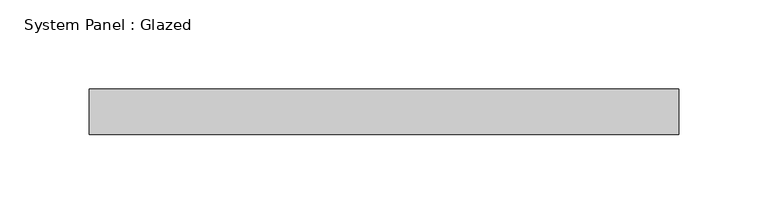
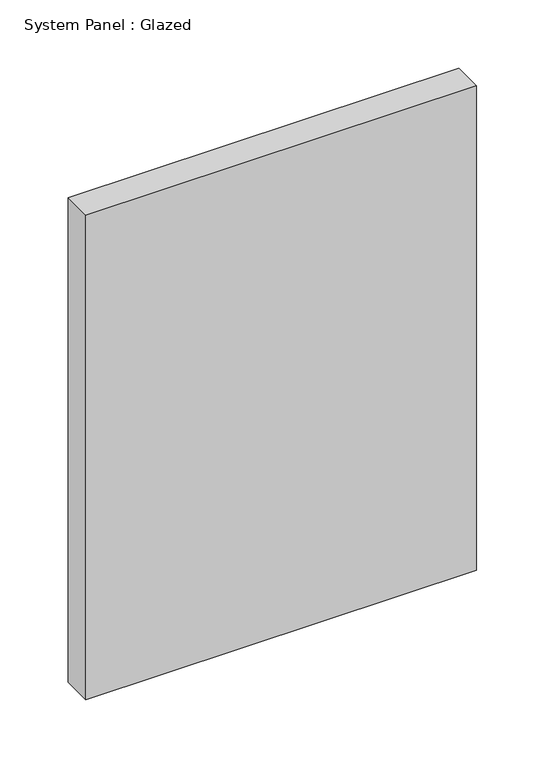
"""IFC4 building model written with IfcOpenShell, lengths in millimetres: plate geometry, System Panel : Glazed."""

from ifc_helpers import new_model, si_unit, origin, origin_with_axes, place, context, project, spatial, polyline, outline, extrude, source, transform, mapped, element, save


def system_panel_glazed_3e00299e(model_context):
    return source(origin(), model_context, "Body", "SweptSolid", [
        extrude(outline(polyline([(164.8644972, -44.45), (-164.8644972, -44.45), (-164.8644972, -19.05), (164.8644972, -19.05), (164.8644972, -44.45)])), origin_with_axes(), (0.0, 0.0, 1.0), 431.8),
    ])


if __name__ == "__main__":
    model = new_model("IFC4")
    model_context = context("Model", 3, world=origin())
    ifc_project = project(units=[si_unit("LENGTHUNIT", "METRE", prefix="MILLI")], contexts=[model_context])
    site = spatial("IfcSite", under=ifc_project)
    building = spatial("IfcBuilding", under=site)
    placement = place(None, origin())
    system_panel_glazed_shape = system_panel_glazed_3e00299e(model_context)
    element("IfcPlate", 1, ObjectType="System Panel : Glazed", at=placement, inside=building, context=model_context, shape_type="MappedRepresentation", body=[
        mapped(system_panel_glazed_shape, transform((0.0, 0.0, 0.0), x_axis=(1.0, 0.0, 0.0), y_axis=(0.0, 1.0, 0.0), z_axis=(0.0, 0.0, 1.0))),
    ])
    save(model, "model.ifc")
